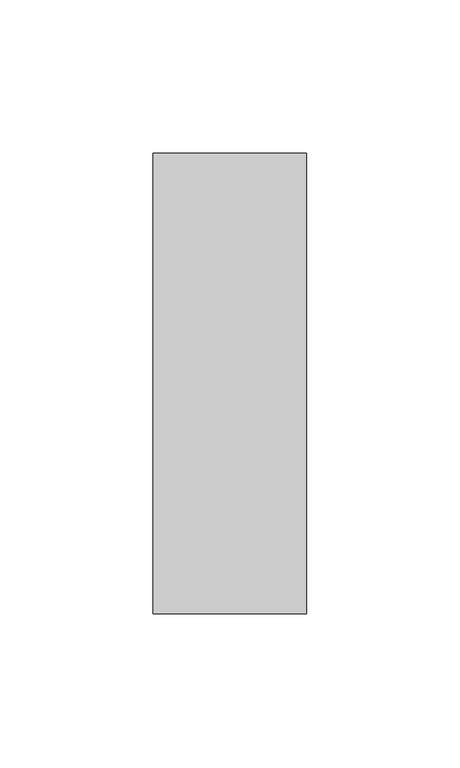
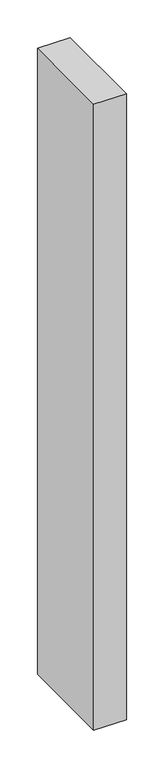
"""IFC4 building model written with IfcOpenShell, lengths in millimetres: member geometry, Прямоугольный импост : 50 x 150 мм."""

from ifc_helpers import new_model, si_unit, frame, origin, place, context, project, spatial, polyline, outline, extrude, source, transform, mapped, element, save


def member_32d89a6e(model_context):
    return source(origin(), model_context, "Body", "SweptSolid", [
        extrude(outline(polyline([(25.0, 75.0), (25.0, -75.0), (-25.0, -75.0), (-25.0, 75.0), (25.0, 75.0)])), frame((0.0, 0.0, -1016.339413), z_axis=(0.0, 0.0, 1.0), x_axis=(1.0, 0.0, 0.0)), (0.0, 0.0, 1.0), 1016.339413),
    ])


if __name__ == "__main__":
    model = new_model("IFC4")
    model_context = context("Model", 3, world=origin())
    ifc_project = project(units=[si_unit("LENGTHUNIT", "METRE", prefix="MILLI")], contexts=[model_context])
    site = spatial("IfcSite", under=ifc_project)
    building = spatial("IfcBuilding", under=site)
    placement = place(None, origin())
    member_shape = member_32d89a6e(model_context)
    element("IfcMember", 1, ObjectType="Прямоугольный импост : 50 x 150 мм", at=placement, inside=building, context=model_context, shape_type="MappedRepresentation", body=[
        mapped(member_shape, transform((0.0, 0.0, 0.0), x_axis=(1.0, 0.0, 0.0), y_axis=(0.0, 1.0, 0.0), z_axis=(0.0, 0.0, 1.0))),
    ])
    save(model, "model.ifc")
